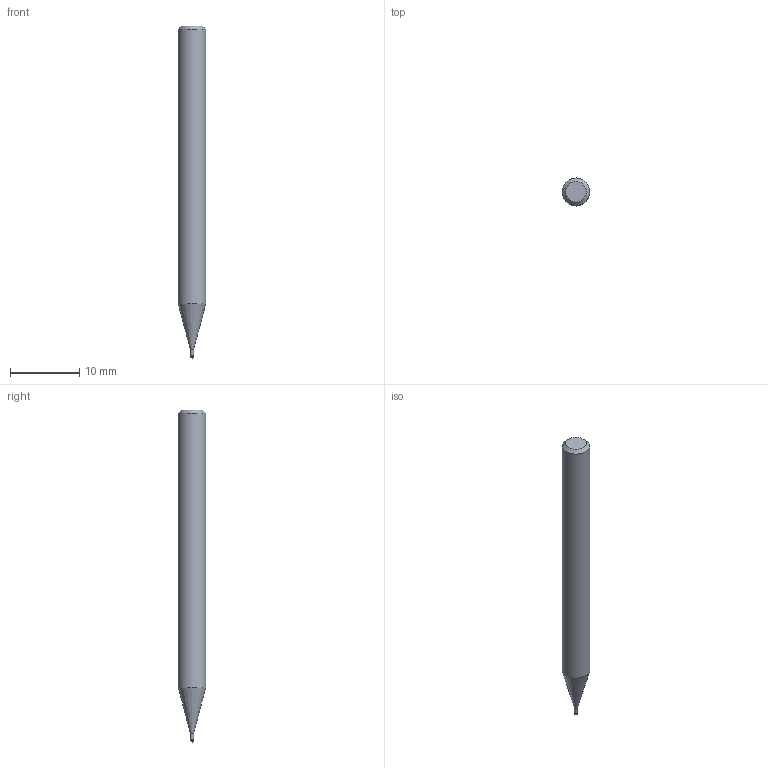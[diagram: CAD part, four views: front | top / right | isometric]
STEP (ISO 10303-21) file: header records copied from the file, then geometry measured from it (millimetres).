
FILE_DESCRIPTION((''),'2;1');
FILE_NAME('C:\Users\nsx150\AppData\Local\Temp\Mastercam 2021\HGI4IWMOT0\TEMP.step','2024-01-12T13:16:48',(''),(''),'STEP Write','Mastercam 2021 ... CNC Software, Inc.','');
FILE_SCHEMA(('AUTOMOTIVE_DESIGN'));
Length unit declared in the file: millimetre
Products named in the file (1): None
Bounding box: 4 x 4 x 48 mm (x, y, z)
Volume: 534.7 mm3; surface area: 563.4 mm2
Topology: 2 solids, 2 shells, 9 faces, 14 edges, 8 vertices
Faces by surface type: plane 3, cylinder 3, cone 2, sphere 1
Full cylindrical faces by diameter (mm): 0.47 x1, 0.5 x1, 4 x1
Entity records: 211 total; most frequent: DIRECTION 36, CARTESIAN_POINT 25, AXIS2_PLACEMENT_3D 18, ORIENTED_EDGE 14, EDGE_LOOP 14, STYLED_ITEM 12, ADVANCED_FACE 9, FACE_BOUND 8
